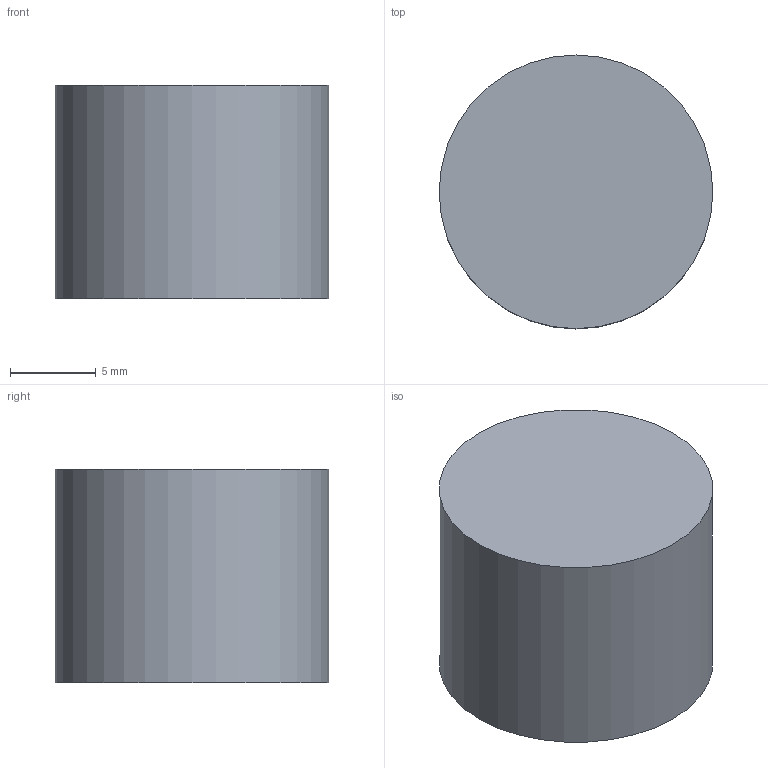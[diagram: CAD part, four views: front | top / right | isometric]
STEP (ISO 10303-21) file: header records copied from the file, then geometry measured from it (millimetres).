
FILE_DESCRIPTION(('Open CASCADE Model'),'2;1');
FILE_NAME('Open CASCADE Shape Model','2026-10-06T14:52:14',('Author'),( 'Open CASCADE'),'Open CASCADE STEP processor 7.9','Open CASCADE 7.9' ,'Unknown');
FILE_SCHEMA(('AUTOMOTIVE_DESIGN { 1 0 10303 214 1 1 1 1 }'));
Length unit declared in the file: millimetre
Products named in the file (2): tx16_r1; tx16_r1_body
Assembly tree (1 placements, depth 2):
  tx16_r1
    tx16_r1_body
Bounding box: 16 x 16 x 12.5 mm (x, y, z)
Volume: 2513.3 mm3; surface area: 1030.4 mm2
Topology: 1 solids, 1 shells, 3 faces, 3 edges, 2 vertices
Faces by surface type: plane 2, cylinder 1
Full cylindrical faces by diameter (mm): 16 x1
Entity records: 135 total; most frequent: DIRECTION 21, CARTESIAN_POINT 16, AXIS2_PLACEMENT_3D 7, ORIENTED_EDGE 6, PCURVE 6, DEFINITIONAL_REPRESENTATION 6, LINE 5, VECTOR 5
